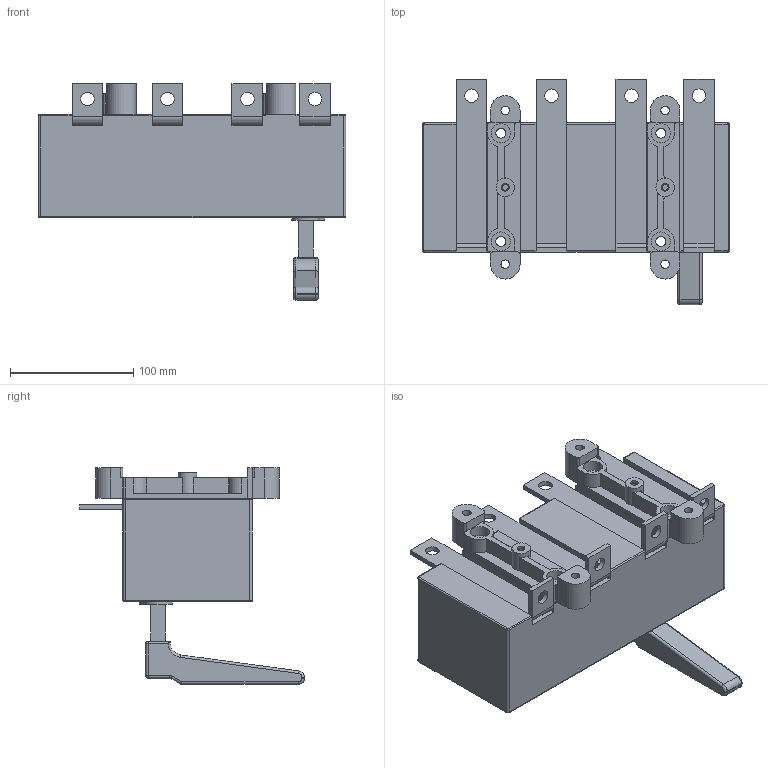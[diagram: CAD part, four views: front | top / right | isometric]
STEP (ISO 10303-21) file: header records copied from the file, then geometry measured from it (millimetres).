
FILE_DESCRIPTION(/* description */ (''),/* implementation_level */ '2;1');
FILE_NAME(/* name */ 'RA400 P3 NA-R.stp',/* time_stamp */ '2021-08-18T14:13:38+02:00',/* author */ (''),/* organization */ (''),/* preprocessor_version */ 'ST-DEVELOPER v18.1',/* originating_system */ 'SIEMENS PLM Software NX 1965',/* authorisation */ '');
FILE_SCHEMA (('AUTOMOTIVE_DESIGN { 1 0 10303 214 3 1 1 1 }'));
Length unit declared in the file: millimetre
Products named in the file (1): RA400 P3 NA-R_stp
Bounding box: 250 x 182.79 x 176 mm (x, y, z)
Volume: 2291611.2 mm3; surface area: 175449.3 mm2
Topology: 1 solids, 1 shells, 286 faces, 735 edges, 460 vertices
Faces by surface type: plane 145, cylinder 119, torus 13, sphere 6, bspline 3
Full cylindrical faces by diameter (mm): 4.8 x2, 6.2 x2, 7 x4, 8.2 x4, 11 x8, 14 x4, 15 x2, 15.5 x4
Entity records: 8574 total; most frequent: DIRECTION 1525, CARTESIAN_POINT 1515, ORIENTED_EDGE 1390, EDGE_CURVE 695, AXIS2_PLACEMENT_3D 550, VERTEX_POINT 456, LINE 425, VECTOR 425
